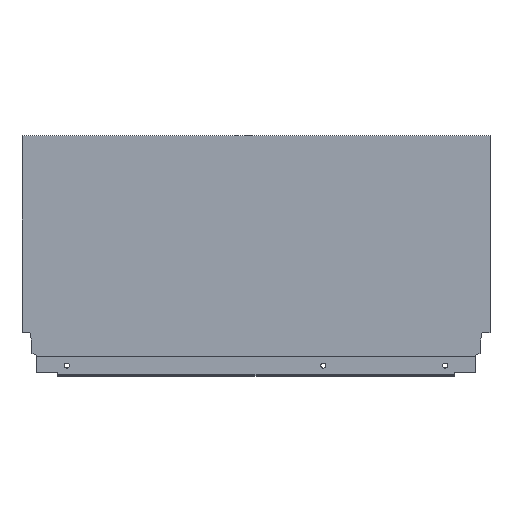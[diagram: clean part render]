
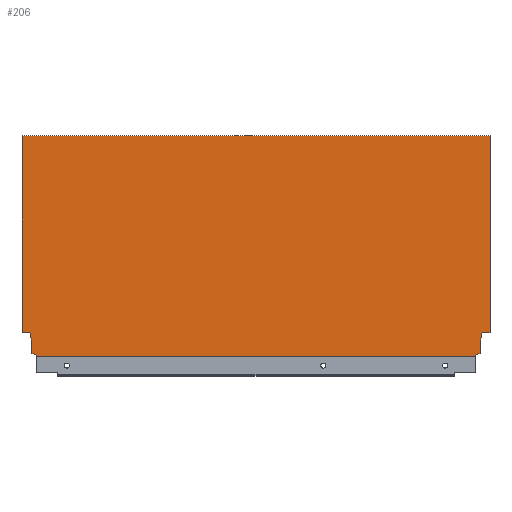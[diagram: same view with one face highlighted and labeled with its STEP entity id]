
A CAD part, top view. The second image highlights one B-rep face of the part: STEP entity #206.
In plain terms, the highlighted planar face has unit normal (0, 0, 1).
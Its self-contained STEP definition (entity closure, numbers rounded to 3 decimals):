
#10 = EDGE_CURVE ( 'NONE', #562, #547, #1150, .T. ) ;
#11 = EDGE_CURVE ( 'NONE', #555, #595, #1148, .T. ) ;
#18 = EDGE_CURVE ( 'NONE', #580, #589, #1127, .T. ) ;
#27 = EDGE_CURVE ( 'NONE', #555, #559, #1113, .T. ) ;
#51 = EDGE_CURVE ( 'NONE', #550, #571, #1073, .T. ) ;
#75 = EDGE_CURVE ( 'NONE', #564, #586, #1039, .T. ) ;
#131 = AXIS2_PLACEMENT_3D ( 'NONE', #336, #340, #339 ) ;
#136 = EDGE_CURVE ( 'NONE', #586, #551, #988, .T. ) ;
#150 = EDGE_CURVE ( 'NONE', #551, #554, #974, .T. ) ;
#152 = EDGE_CURVE ( 'NONE', #589, #562, #969, .T. ) ;
#162 = EDGE_CURVE ( 'NONE', #605, #550, #977, .T. ) ;
#163 = EDGE_CURVE ( 'NONE', #554, #605, #948, .T. ) ;
#167 = EDGE_CURVE ( 'NONE', #564, #547, #946, .T. ) ;
#179 = EDGE_CURVE ( 'NONE', #571, #559, #943, .T. ) ;
#189 = EDGE_CURVE ( 'NONE', #595, #580, #916, .T. ) ;
#206 = ADVANCED_FACE ( 'NONE', ( #1404 ), #342, .T. ) ;
#230 = DIRECTION ( 'NONE',  ( -0.174, -0.985, 0. ) ) ;
#231 = DIRECTION ( 'NONE',  ( 0., -1., 0. ) ) ;
#232 = CARTESIAN_POINT ( 'NONE',  ( -417., 0., 7.5 ) ) ;
#233 = CARTESIAN_POINT ( 'NONE',  ( -7.06, 21.2, 7.5 ) ) ;
#235 = DIRECTION ( 'NONE',  ( -1., 0., 0. ) ) ;
#236 = DIRECTION ( 'NONE',  ( 0., -1., 0. ) ) ;
#238 = CARTESIAN_POINT ( 'NONE',  ( 0., 21.2, 7.5 ) ) ;
#262 = DIRECTION ( 'NONE',  ( 0., -1., 0. ) ) ;
#265 = CARTESIAN_POINT ( 'NONE',  ( -13.004, 1.146, 7.5 ) ) ;
#273 = DIRECTION ( 'NONE',  ( -0.94, 0.342, 0. ) ) ;
#276 = CARTESIAN_POINT ( 'NONE',  ( -408.1, 2.64, 7.5 ) ) ;
#310 = DIRECTION ( 'NONE',  ( 0., -1., 0. ) ) ;
#317 = CARTESIAN_POINT ( 'NONE',  ( 0., 0., 7.5 ) ) ;
#336 = CARTESIAN_POINT ( 'NONE',  ( -417., 0., 7.5 ) ) ;
#339 = DIRECTION ( 'NONE',  ( 1., 0., 0. ) ) ;
#340 = DIRECTION ( 'NONE',  ( 0., 0., 1. ) ) ;
#342 = PLANE ( 'NONE',  #131 ) ;
#351 = CARTESIAN_POINT ( 'NONE',  ( -8.9, 10.765, 7.5 ) ) ;
#408 = DIRECTION ( 'NONE',  ( 1., 0., 0. ) ) ;
#409 = CARTESIAN_POINT ( 'NONE',  ( -417., 196.7, 7.5 ) ) ;
#417 = CARTESIAN_POINT ( 'NONE',  ( -409.94, 21.2, 7.5 ) ) ;
#448 = DIRECTION ( 'NONE',  ( -0.94, -0.342, 0. ) ) ;
#450 = CARTESIAN_POINT ( 'NONE',  ( -8.9, 2.64, 7.5 ) ) ;
#491 = DIRECTION ( 'NONE',  ( 1., 0., 0. ) ) ;
#493 = CARTESIAN_POINT ( 'NONE',  ( -417., 0., 7.5 ) ) ;
#509 = DIRECTION ( 'NONE',  ( 0., 1., 0. ) ) ;
#510 = CARTESIAN_POINT ( 'NONE',  ( -408.1, 10.765, 7.5 ) ) ;
#523 = DIRECTION ( 'NONE',  ( 0., 1., 0. ) ) ;
#525 = DIRECTION ( 'NONE',  ( -1., 0., 0. ) ) ;
#526 = CARTESIAN_POINT ( 'NONE',  ( -403.996, 1.146, 7.5 ) ) ;
#528 = CARTESIAN_POINT ( 'NONE',  ( -422., 21.2, 7.5 ) ) ;
#547 = VERTEX_POINT ( 'NONE', #724 ) ;
#550 = VERTEX_POINT ( 'NONE', #807 ) ;
#551 = VERTEX_POINT ( 'NONE', #726 ) ;
#554 = VERTEX_POINT ( 'NONE', #736 ) ;
#555 = VERTEX_POINT ( 'NONE', #800 ) ;
#559 = VERTEX_POINT ( 'NONE', #787 ) ;
#562 = VERTEX_POINT ( 'NONE', #757 ) ;
#564 = VERTEX_POINT ( 'NONE', #886 ) ;
#571 = VERTEX_POINT ( 'NONE', #816 ) ;
#580 = VERTEX_POINT ( 'NONE', #781 ) ;
#586 = VERTEX_POINT ( 'NONE', #784 ) ;
#589 = VERTEX_POINT ( 'NONE', #785 ) ;
#595 = VERTEX_POINT ( 'NONE', #888 ) ;
#605 = VERTEX_POINT ( 'NONE', #696 ) ;
#630 = DIRECTION ( 'NONE',  ( -0.174, 0.985, 0. ) ) ;
#696 = CARTESIAN_POINT ( 'NONE',  ( -8.9, 10.765, 7.5 ) ) ;
#724 = CARTESIAN_POINT ( 'NONE',  ( -417., 21.2, 7.5 ) ) ;
#726 = CARTESIAN_POINT ( 'NONE',  ( 0., 21.2, 7.5 ) ) ;
#736 = CARTESIAN_POINT ( 'NONE',  ( -7.06, 21.2, 7.5 ) ) ;
#757 = CARTESIAN_POINT ( 'NONE',  ( -409.94, 21.2, 7.5 ) ) ;
#781 = CARTESIAN_POINT ( 'NONE',  ( -408.1, 2.64, 7.5 ) ) ;
#784 = CARTESIAN_POINT ( 'NONE',  ( 0., 196.7, 7.5 ) ) ;
#785 = CARTESIAN_POINT ( 'NONE',  ( -408.1, 10.765, 7.5 ) ) ;
#787 = CARTESIAN_POINT ( 'NONE',  ( -13.004, 0., 7.5 ) ) ;
#800 = CARTESIAN_POINT ( 'NONE',  ( -403.996, 0., 7.5 ) ) ;
#807 = CARTESIAN_POINT ( 'NONE',  ( -8.9, 2.64, 7.5 ) ) ;
#816 = CARTESIAN_POINT ( 'NONE',  ( -13.004, 1.146, 7.5 ) ) ;
#886 = CARTESIAN_POINT ( 'NONE',  ( -417., 196.7, 7.5 ) ) ;
#888 = CARTESIAN_POINT ( 'NONE',  ( -403.996, 1.146, 7.5 ) ) ;
#915 = VECTOR ( 'NONE', #273, 1000. ) ;
#916 = LINE ( 'NONE', #276, #915 ) ;
#943 = LINE ( 'NONE', #265, #952 ) ;
#944 = VECTOR ( 'NONE', #236, 1000. ) ;
#946 = LINE ( 'NONE', #232, #944 ) ;
#947 = VECTOR ( 'NONE', #230, 1000. ) ;
#948 = LINE ( 'NONE', #233, #947 ) ;
#952 = VECTOR ( 'NONE', #262, 1000. ) ;
#959 = VECTOR ( 'NONE', #231, 1000. ) ;
#968 = VECTOR ( 'NONE', #630, 1000. ) ;
#969 = LINE ( 'NONE', #417, #968 ) ;
#973 = VECTOR ( 'NONE', #235, 1000. ) ;
#974 = LINE ( 'NONE', #238, #973 ) ;
#977 = LINE ( 'NONE', #351, #959 ) ;
#988 = LINE ( 'NONE', #317, #990 ) ;
#990 = VECTOR ( 'NONE', #310, 1000. ) ;
#1038 = VECTOR ( 'NONE', #408, 1000. ) ;
#1039 = LINE ( 'NONE', #409, #1038 ) ;
#1069 = VECTOR ( 'NONE', #448, 1000. ) ;
#1073 = LINE ( 'NONE', #450, #1069 ) ;
#1112 = VECTOR ( 'NONE', #491, 1000. ) ;
#1113 = LINE ( 'NONE', #493, #1112 ) ;
#1126 = VECTOR ( 'NONE', #509, 1000. ) ;
#1127 = LINE ( 'NONE', #510, #1126 ) ;
#1141 = VECTOR ( 'NONE', #523, 1000. ) ;
#1145 = VECTOR ( 'NONE', #525, 1000. ) ;
#1148 = LINE ( 'NONE', #526, #1141 ) ;
#1150 = LINE ( 'NONE', #528, #1145 ) ;
#1163 = ORIENTED_EDGE ( 'NONE', *, *, #51, .F. ) ;
#1164 = ORIENTED_EDGE ( 'NONE', *, *, #179, .F. ) ;
#1165 = ORIENTED_EDGE ( 'NONE', *, *, #27, .T. ) ;
#1166 = ORIENTED_EDGE ( 'NONE', *, *, #11, .F. ) ;
#1167 = ORIENTED_EDGE ( 'NONE', *, *, #189, .F. ) ;
#1168 = ORIENTED_EDGE ( 'NONE', *, *, #18, .F. ) ;
#1169 = ORIENTED_EDGE ( 'NONE', *, *, #152, .F. ) ;
#1170 = ORIENTED_EDGE ( 'NONE', *, *, #10, .F. ) ;
#1171 = ORIENTED_EDGE ( 'NONE', *, *, #167, .T. ) ;
#1291 = ORIENTED_EDGE ( 'NONE', *, *, #75, .F. ) ;
#1292 = ORIENTED_EDGE ( 'NONE', *, *, #136, .F. ) ;
#1293 = ORIENTED_EDGE ( 'NONE', *, *, #150, .F. ) ;
#1294 = ORIENTED_EDGE ( 'NONE', *, *, #163, .F. ) ;
#1295 = ORIENTED_EDGE ( 'NONE', *, *, #162, .F. ) ;
#1331 = EDGE_LOOP ( 'NONE', ( #1171, #1170, #1169, #1168, #1167, #1166, #1165, #1164, #1163, #1295, #1294, #1293, #1292, #1291 ) ) ;
#1404 = FACE_OUTER_BOUND ( 'NONE', #1331, .T. ) ;
